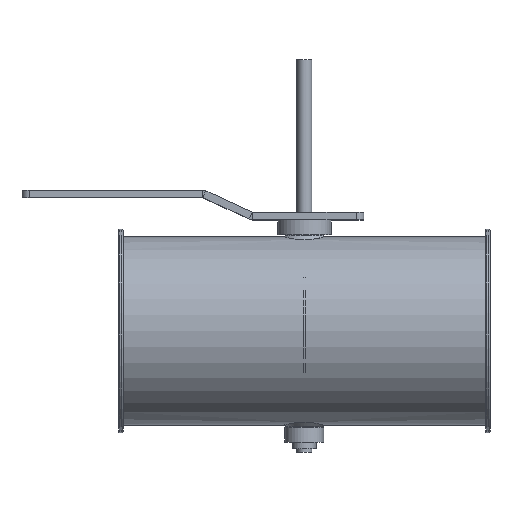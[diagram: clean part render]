
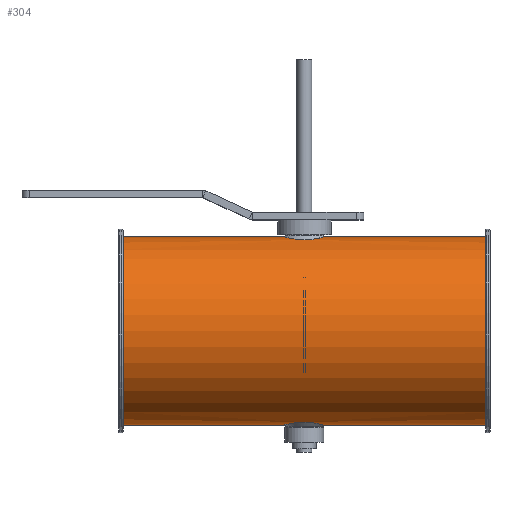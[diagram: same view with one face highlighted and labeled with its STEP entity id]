
A CAD part, top view. The second image highlights one B-rep face of the part: STEP entity #304.
In plain terms, the highlighted cylindrical face has radius 63.3 mm (diameter 126.6 mm), a full revolution.
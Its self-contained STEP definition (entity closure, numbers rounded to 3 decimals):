
#209=B_SPLINE_CURVE_WITH_KNOTS('',3,(#1890,#1891,#1892,#1893,#1894,#1895,
#1896,#1897,#1898,#1899,#1900,#1901,#1902,#1903,#1904,#1905,#1906,#1907,
#1908,#1909,#1910,#1911),.UNSPECIFIED.,.T.,.F.,(2,2,2,2,2,2,2,2,2,2,2,2,
2),(-0.063,0.,0.125,0.25,0.375,0.438,0.5,0.625,0.75,0.875,
0.938,1.,1.125),.UNSPECIFIED.);
#210=B_SPLINE_CURVE_WITH_KNOTS('',3,(#1913,#1914,#1915,#1916,#1917,#1918,
#1919,#1920,#1921,#1922,#1923,#1924,#1925,#1926,#1927,#1928,#1929,#1930,
#1931,#1932,#1933,#1934,#1935,#1936,#1937,#1938),.UNSPECIFIED.,.T.,.F.,(2,
2,2,2,2,2,2,2,2,2,2,2,2,2,2),(-0.063,0.,0.063,0.125,0.25,0.375,
0.5,0.562,0.625,0.687,
0.75,0.875,0.938,1.,1.063),.UNSPECIFIED.);
#267=CYLINDRICAL_SURFACE('',#1333,63.3);
#304=ADVANCED_FACE('',(#443,#444,#445,#446),#267,.T.);
#443=FACE_BOUND('',#579,.T.);
#444=FACE_BOUND('',#580,.T.);
#445=FACE_BOUND('',#581,.T.);
#446=FACE_BOUND('',#582,.T.);
#579=EDGE_LOOP('',(#743));
#580=EDGE_LOOP('',(#744));
#581=EDGE_LOOP('',(#745));
#582=EDGE_LOOP('',(#746));
#743=ORIENTED_EDGE('',*,*,#1109,.T.);
#744=ORIENTED_EDGE('',*,*,#1110,.T.);
#745=ORIENTED_EDGE('',*,*,#1111,.T.);
#746=ORIENTED_EDGE('',*,*,#1112,.F.);
#1003=VERTEX_POINT('',#1889);
#1004=VERTEX_POINT('',#1912);
#1005=VERTEX_POINT('',#1939);
#1006=VERTEX_POINT('',#1941);
#1109=EDGE_CURVE('',#1003,#1003,#1243,.T.);
#1110=EDGE_CURVE('',#1004,#1004,#209,.T.);
#1111=EDGE_CURVE('',#1005,#1005,#210,.T.);
#1112=EDGE_CURVE('',#1006,#1006,#1244,.T.);
#1243=CIRCLE('',#1331,63.3);
#1244=CIRCLE('',#1332,63.3);
#1331=AXIS2_PLACEMENT_3D('',#1888,#1516,#1517);
#1332=AXIS2_PLACEMENT_3D('',#1940,#1518,#1519);
#1333=AXIS2_PLACEMENT_3D('',#1942,#1520,#1521);
#1516=DIRECTION('',(1.,0.,0.));
#1517=DIRECTION('',(0.,0.,1.));
#1518=DIRECTION('',(1.,0.,0.));
#1519=DIRECTION('',(0.,0.,1.));
#1520=DIRECTION('',(1.,0.,0.));
#1521=DIRECTION('',(0.,0.,-1.));
#1888=CARTESIAN_POINT('',(-122.,-20.8,125.));
#1889=CARTESIAN_POINT('',(-122.,-20.8,188.3));
#1890=CARTESIAN_POINT('',(-1.423,-82.012,108.867));
#1891=CARTESIAN_POINT('',(-7.199,-82.427,110.501));
#1892=CARTESIAN_POINT('',(-10.326,-83.122,113.378));
#1893=CARTESIAN_POINT('',(-13.997,-84.024,120.327));
#1894=CARTESIAN_POINT('',(-14.59,-84.217,124.512));
#1895=CARTESIAN_POINT('',(-13.084,-83.803,132.248));
#1896=CARTESIAN_POINT('',(-10.977,-83.202,135.898));
#1897=CARTESIAN_POINT('',(-6.335,-82.435,139.474));
#1898=CARTESIAN_POINT('',(-4.513,-82.208,140.366));
#1899=CARTESIAN_POINT('',(-0.609,-81.993,141.202));
#1900=CARTESIAN_POINT('',(1.444,-82.014,141.127));
#1901=CARTESIAN_POINT('',(7.139,-82.423,139.518));
#1902=CARTESIAN_POINT('',(10.293,-83.115,136.669));
#1903=CARTESIAN_POINT('',(14.002,-84.025,129.678));
#1904=CARTESIAN_POINT('',(14.599,-84.219,125.558));
#1905=CARTESIAN_POINT('',(13.082,-83.802,117.719));
#1906=CARTESIAN_POINT('',(11.036,-83.212,114.149));
#1907=CARTESIAN_POINT('',(6.313,-82.431,110.508));
#1908=CARTESIAN_POINT('',(4.491,-82.207,109.629));
#1909=CARTESIAN_POINT('',(0.628,-81.994,108.802));
#1910=CARTESIAN_POINT('',(-1.423,-82.012,108.867));
#1911=CARTESIAN_POINT('',(-7.199,-82.427,110.501));
#1912=CARTESIAN_POINT('',(-3.348,-82.151,109.411));
#1913=CARTESIAN_POINT('',(-5.274,40.689,109.956));
#1914=CARTESIAN_POINT('',(-1.423,40.412,108.867));
#1915=CARTESIAN_POINT('',(0.619,40.394,108.801));
#1916=CARTESIAN_POINT('',(4.488,40.606,109.627));
#1917=CARTESIAN_POINT('',(6.322,40.833,110.515));
#1918=CARTESIAN_POINT('',(11.011,41.608,114.129));
#1919=CARTESIAN_POINT('',(13.094,42.206,117.776));
#1920=CARTESIAN_POINT('',(14.59,42.616,125.515));
#1921=CARTESIAN_POINT('',(13.988,42.422,129.697));
#1922=CARTESIAN_POINT('',(10.322,41.522,136.623));
#1923=CARTESIAN_POINT('',(7.209,40.831,139.486));
#1924=CARTESIAN_POINT('',(1.465,40.414,141.127));
#1925=CARTESIAN_POINT('',(-0.582,40.393,141.203));
#1926=CARTESIAN_POINT('',(-4.487,40.606,140.376));
#1927=CARTESIAN_POINT('',(-6.307,40.831,139.492));
#1928=CARTESIAN_POINT('',(-9.427,41.346,137.096));
#1929=CARTESIAN_POINT('',(-10.739,41.633,135.582));
#1930=CARTESIAN_POINT('',(-12.76,42.115,132.183));
#1931=CARTESIAN_POINT('',(-13.461,42.306,130.322));
#1932=CARTESIAN_POINT('',(-14.599,42.619,124.445));
#1933=CARTESIAN_POINT('',(-14.013,42.428,120.348));
#1934=CARTESIAN_POINT('',(-11.222,41.743,115.079));
#1935=CARTESIAN_POINT('',(-10.019,41.467,113.533));
#1936=CARTESIAN_POINT('',(-7.018,40.933,110.941));
#1937=CARTESIAN_POINT('',(-5.274,40.689,109.956));
#1938=CARTESIAN_POINT('',(-1.423,40.412,108.867));
#1939=CARTESIAN_POINT('',(-3.348,40.551,109.411));
#1940=CARTESIAN_POINT('',(122.,-20.8,125.));
#1941=CARTESIAN_POINT('',(122.,-20.8,188.3));
#1942=CARTESIAN_POINT('',(-125.,-20.8,125.));
